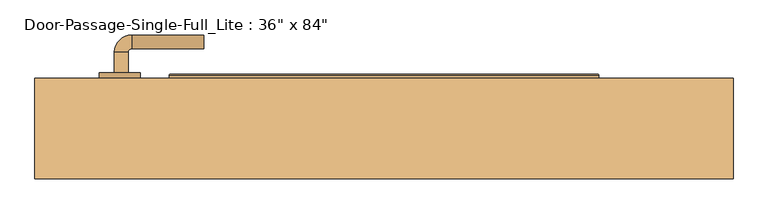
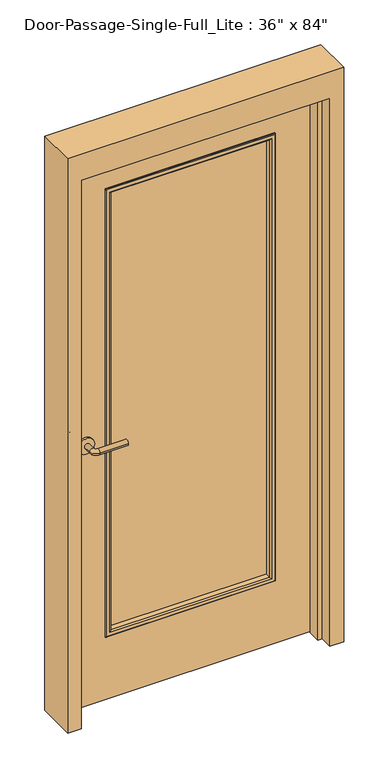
"""IFC4 building model written with IfcOpenShell, lengths in millimetres: door geometry."""

from ifc_helpers import new_model, si_unit, point, frame, frame_2d, origin, place, context, project, spatial, polyline, circle_curve, ellipse_curve, trimmed, segment, composite_curve, outline, extrude, faceted_brep, source, transform, mapped, element, save
from ifc_brep_helpers import plane_surface, cylinder_surface, revolved_surface, advanced_brep


def door_4a7c4c71(model_context):
    return source(origin(), model_context, "Body", "SolidModel", [
        advanced_brep(
        [(-392.190625, 23.75, 1016.0), (-372.190625, 23.75, 1016.0), (-372.190625, -6.25, 1016.0), (-392.190625, -6.25, 1016.0), (-367.190625, -11.25, 1016.0), (-367.190625, -31.25, 1016.0), (-262.190625, -31.25, 1016.0), (-262.190625, -11.25, 1016.0)],
        [
            (0, 1, circle_curve(frame((-382.190625, 23.75, 1016.0), z_axis=(0.0, 1.0, 0.0), x_axis=(1.0, 0.0, 0.0)), 10.0)),
            (1, 0, circle_curve(frame((-382.190625, 23.75, 1016.0), z_axis=(0.0, 1.0, 0.0), x_axis=(1.0, 0.0, 0.0)), 10.0)),
            (1, 2),
            (2, 3, circle_curve(frame((-382.190625, -6.25, 1016.0), z_axis=(0.0, 1.0, 0.0), x_axis=(1.0, 0.0, 0.0)), 10.0)),
            (3, 0),
            (3, 2, circle_curve(frame((-382.190625, -6.25, 1016.0), z_axis=(0.0, 1.0, 0.0), x_axis=(1.0, 0.0, 0.0)), 10.0)),
            (4, 5, circle_curve(frame((-367.190625, -21.25, 1016.0), z_axis=(-1.0, 0.0, 0.0), x_axis=(0.0, 1.0, 0.0)), 10.0)),
            (5, 3, circle_curve(frame((-367.190625, -6.25, 1016.0), z_axis=(0.0, 0.0, -1.0), x_axis=(-1.0, 0.0, 0.0)), 25.0)),
            (2, 4, circle_curve(frame((-367.190625, -6.25, 1016.0), z_axis=(0.0, 0.0, 1.0), x_axis=(-1.0, 0.0, 0.0)), 5.0)),
            (5, 4, circle_curve(frame((-367.190625, -21.25, 1016.0), z_axis=(-1.0, 0.0, 0.0), x_axis=(0.0, 1.0, 0.0)), 10.0)),
            (6, 7, circle_curve(frame((-262.190625, -21.25, 1016.0), z_axis=(1.0, 0.0, 0.0), x_axis=(0.0, 1.0, 0.0)), 10.0)),
            (7, 6, circle_curve(frame((-262.190625, -21.25, 1016.0), z_axis=(1.0, 0.0, 0.0), x_axis=(0.0, 1.0, 0.0)), 10.0)),
            (4, 7),
            (6, 5),
        ],
        [
            plane_surface(frame((-382.190625, 23.75, 1016.0), z_axis=(0.0, 1.0, 0.0), x_axis=(0.0, 0.0, 1.0))),
            cylinder_surface(frame((-382.190625, 23.75, 1016.0), z_axis=(0.0, 1.0, 0.0), x_axis=(1.0, 0.0, 0.0)), 10.0),
            revolved_surface(trimmed(ellipse_curve(frame((-382.190625, -6.25, 1016.0), z_axis=(0.0, -1.0, 0.0), x_axis=(1.0, 0.0, 0.0)), 10.0, 10.0), [point((-392.190625, -6.25, 1016.0))], [point((-372.190625, -6.25, 1016.0))], True, "CARTESIAN"), (-367.190625, -6.25, 1016.0), (0.0, 0.0, -1.0)),
            revolved_surface(trimmed(ellipse_curve(frame((-382.190625, -6.25, 1016.0), z_axis=(0.0, -1.0, 0.0), x_axis=(1.0, 0.0, 0.0)), 10.0, 10.0), [point((-372.190625, -6.25, 1016.0))], [point((-392.190625, -6.25, 1016.0))], True, "CARTESIAN"), (-367.190625, -6.25, 1016.0), (0.0, 0.0, -1.0)),
            plane_surface(frame((-262.190625, -21.25, 1016.0), z_axis=(1.0, 0.0, 0.0), x_axis=(0.0, 0.0, 1.0))),
            cylinder_surface(frame((-367.190625, -21.25, 1016.0), z_axis=(-1.0, 0.0, 0.0), x_axis=(0.0, 1.0, 0.0)), 10.0),
        ],
        [
            (0, [[1, 2]]),
            (1, [[3, 4, 5, -2]]),
            (1, [[-5, 6, -3, -1]]),
            (2, [[7, 8, -4, 9]]),
            (3, [[10, -9, -6, -8]]),
            (4, [[11, 12]]),
            (5, [[13, -11, 14, -7]]),
            (5, [[-14, -12, -13, -10]]),
        ],
    ),
        extrude(outline(composite_curve([segment(trimmed(circle_curve(frame_2d((1016.0, -384.690625)), 30.0), [point((1016.0, -414.690625))], [point((1016.0, -354.690625))], False, "CARTESIAN"), True, "CONTINUOUS"), segment(trimmed(circle_curve(frame_2d((1016.0, -384.690625)), 30.0), [point((1016.0, -354.690625))], [point((1016.0, -414.690625))], False, "CARTESIAN"), True, "CONTINUOUS")], self_intersect=False)), frame((0.0, 23.75, 0.0), z_axis=(0.0, 1.0, 0.0), x_axis=(0.0, 0.0, 1.0)), (0.0, 0.0, 1.0), 8.0),
        advanced_brep(
        [(-392.190625, 84.2, 1016.0), (-372.190625, 84.2, 1016.0), (-392.190625, 114.2, 1016.0), (-372.190625, 114.2, 1016.0), (-367.190625, 119.2, 1016.0), (-367.190625, 139.2, 1016.0), (-262.190625, 139.2, 1016.0), (-262.190625, 119.2, 1016.0)],
        [
            (0, 1, circle_curve(frame((-382.190625, 84.2, 1016.0), z_axis=(0.0, -1.0, 0.0), x_axis=(1.0, 0.0, 0.0)), 10.0)),
            (1, 0, circle_curve(frame((-382.190625, 84.2, 1016.0), z_axis=(0.0, -1.0, 0.0), x_axis=(1.0, 0.0, 0.0)), 10.0)),
            (0, 2),
            (2, 3, circle_curve(frame((-382.190625, 114.2, 1016.0), z_axis=(0.0, -1.0, 0.0), x_axis=(1.0, 0.0, 0.0)), 10.0)),
            (3, 1),
            (3, 2, circle_curve(frame((-382.190625, 114.2, 1016.0), z_axis=(0.0, -1.0, 0.0), x_axis=(1.0, 0.0, 0.0)), 10.0)),
            (4, 3, circle_curve(frame((-367.190625, 114.2, 1016.0), z_axis=(0.0, 0.0, 1.0), x_axis=(-1.0, 0.0, 0.0)), 5.0)),
            (2, 5, circle_curve(frame((-367.190625, 114.2, 1016.0), z_axis=(0.0, 0.0, -1.0), x_axis=(-1.0, 0.0, 0.0)), 25.0)),
            (5, 4, circle_curve(frame((-367.190625, 129.2, 1016.0), z_axis=(-1.0, 0.0, 0.0), x_axis=(0.0, -1.0, 0.0)), 10.0)),
            (4, 5, circle_curve(frame((-367.190625, 129.2, 1016.0), z_axis=(-1.0, 0.0, 0.0), x_axis=(0.0, -1.0, 0.0)), 10.0)),
            (6, 7, circle_curve(frame((-262.190625, 129.2, 1016.0), z_axis=(1.0, 0.0, 0.0), x_axis=(0.0, -1.0, 0.0)), 10.0)),
            (7, 6, circle_curve(frame((-262.190625, 129.2, 1016.0), z_axis=(1.0, 0.0, 0.0), x_axis=(0.0, -1.0, 0.0)), 10.0)),
            (5, 6),
            (7, 4),
        ],
        [
            plane_surface(frame((-382.190625, 84.2, 1016.0), z_axis=(0.0, -1.0, 0.0), x_axis=(0.0, 0.0, 1.0))),
            cylinder_surface(frame((-382.190625, 84.2, 1016.0), z_axis=(0.0, -1.0, 0.0), x_axis=(1.0, 0.0, 0.0)), 10.0),
            revolved_surface(trimmed(ellipse_curve(frame((-382.190625, 114.2, 1016.0), z_axis=(0.0, -1.0, 0.0), x_axis=(1.0, 0.0, 0.0)), 10.0, 10.0), [point((-392.190625, 114.2, 1016.0))], [point((-372.190625, 114.2, 1016.0))], True, "CARTESIAN"), (-367.190625, 114.2, 1016.0), (0.0, 0.0, -1.0)),
            revolved_surface(trimmed(ellipse_curve(frame((-382.190625, 114.2, 1016.0), z_axis=(0.0, -1.0, 0.0), x_axis=(1.0, 0.0, 0.0)), 10.0, 10.0), [point((-372.190625, 114.2, 1016.0))], [point((-392.190625, 114.2, 1016.0))], True, "CARTESIAN"), (-367.190625, 114.2, 1016.0), (0.0, 0.0, -1.0)),
            plane_surface(frame((-262.190625, 129.2, 1016.0), z_axis=(1.0, 0.0, 0.0), x_axis=(0.0, 0.0, 1.0))),
            cylinder_surface(frame((-367.190625, 129.2, 1016.0), z_axis=(-1.0, 0.0, 0.0), x_axis=(0.0, -1.0, 0.0)), 10.0),
        ],
        [
            (0, [[1, 2]]),
            (1, [[-1, 3, 4, 5]]),
            (1, [[-2, -5, 6, -3]]),
            (2, [[7, -4, 8, 9]]),
            (3, [[-8, -6, -7, 10]]),
            (4, [[11, 12]]),
            (5, [[-9, 13, -12, 14]]),
            (5, [[-10, -14, -11, -13]]),
        ],
    ),
        extrude(outline(composite_curve([segment(trimmed(circle_curve(frame_2d((1016.0, -384.690625)), 30.0), [point((1016.0, -414.690625))], [point((1016.0, -354.690625))], False, "CARTESIAN"), True, "CONTINUOUS"), segment(trimmed(circle_curve(frame_2d((1016.0, -384.690625)), 30.0), [point((1016.0, -354.690625))], [point((1016.0, -414.690625))], False, "CARTESIAN"), True, "CONTINUOUS")], self_intersect=False)), frame((0.0, 76.2, 0.0), z_axis=(0.0, 1.0, 0.0), x_axis=(0.0, 0.0, 1.0)), (0.0, 0.0, 1.0), 8.0),
        extrude(outline(polyline([(304.8, 50.8), (-304.8, 50.8), (-304.8, 57.15), (304.8, 57.15), (304.8, 50.8)])), frame((0.0, 0.0, 254.0), z_axis=(0.0, 0.0, 1.0), x_axis=(1.0, 0.0, 0.0)), (0.0, 0.0, 1.0), 1727.2),
        faceted_brep([(457.2, 26.9875, 0.0), (457.2, 76.2, 0.0), (508.0, 76.2, 0.0), (508.0, -69.85, 0.0), (457.2, -69.85, 0.0), (457.2, -20.6375, 0.0), (441.325, -20.6375, 0.0), (441.325, 26.9875, 0.0), (457.2, 26.9875, 2133.6), (457.2, 76.2, 2133.6), (-457.2, 76.2, 2133.6), (-457.2, 76.2, 0.0), (-508.0, 76.2, 0.0), (-508.0, 76.2, 2235.2), (508.0, 76.2, 2235.2), (508.0, -69.85, 2235.2), (-508.0, -69.85, 2235.2), (-508.0, -69.85, 0.0), (-457.2, -69.85, 0.0), (-457.2, -69.85, 2133.6), (457.2, -69.85, 2133.6), (457.2, -20.6375, 2133.6), (-457.2, -20.6375, 2133.6), (-457.2, -20.6375, 0.0), (-441.325, -20.6375, 0.0), (-441.325, -20.6375, 2117.725), (441.325, -20.6375, 2117.725), (441.325, 26.9875, 2117.725), (-441.325, 26.9875, 2117.725), (-441.325, 26.9875, 0.0), (-457.2, 26.9875, 0.0), (-457.2, 26.9875, 2133.6)], [[[0, 1, 2, 3, 4, 5, 6, 7]], [[1, 0, 8, 9]], [[2, 1, 9, 10, 11, 12, 13, 14]], [[3, 2, 14, 15]], [[4, 3, 15, 16, 17, 18, 19, 20]], [[5, 4, 20, 21]], [[6, 5, 21, 22, 23, 24, 25, 26]], [[7, 6, 26, 27]], [[0, 7, 27, 28, 29, 30, 31, 8]], [[9, 8, 31, 10]], [[20, 19, 22, 21]], [[26, 25, 28, 27]], [[12, 11, 30, 29, 24, 23, 18, 17]], [[11, 10, 31, 30]], [[13, 12, 17, 16]], [[19, 18, 23, 22]], [[25, 24, 29, 28]], [[15, 14, 13, 16]]]),
        extrude(outline(polyline([(2133.6, -457.2), (0.0, -457.2), (0.0, 457.2), (2133.6, 457.2), (2133.6, -457.2)]), holes=[polyline([(1981.2, -304.8), (1981.2, 304.8), (254.0, 304.8), (254.0, -304.8), (1981.2, -304.8)])]), frame((0.0, 31.75, 0.0), z_axis=(0.0, 1.0, 0.0), x_axis=(0.0, 0.0, 1.0)), (0.0, 0.0, 1.0), 44.45),
        advanced_brep(
        [(-304.8, 57.15, 1981.2), (-304.8, 76.2, 1981.2), (-304.8, 76.2, 254.0), (-304.8, 57.15, 254.0), (-292.8, 77.2, 1969.2), (-292.8, 57.15, 1969.2), (-292.8, 57.15, 266.0), (-292.8, 77.2, 266.0), (-297.8, 82.2, 1974.2), (-297.8, 82.2, 261.0), (-312.8, 80.2, 1989.2), (-310.8, 82.2, 1987.2), (-310.8, 82.2, 248.0), (-312.8, 80.2, 246.0), (-312.8, 76.2, 1989.2), (-312.8, 76.2, 246.0), (304.8, 76.2, 254.0), (304.8, 57.15, 254.0), (292.8, 57.15, 266.0), (292.8, 77.2, 266.0), (297.8, 82.2, 261.0), (310.8, 82.2, 248.0), (312.8, 80.2, 246.0), (312.8, 76.2, 246.0), (304.8, 76.2, 1981.2), (304.8, 57.15, 1981.2), (292.8, 57.15, 1969.2), (292.8, 77.2, 1969.2), (297.8, 82.2, 1974.2), (310.8, 82.2, 1987.2), (312.8, 80.2, 1989.2), (312.8, 76.2, 1989.2)],
        [
            (0, 1),
            (1, 2),
            (2, 3),
            (3, 0),
            (4, 5),
            (5, 6),
            (6, 7),
            (7, 4),
            (8, 4, ellipse_curve(frame((-297.8, 77.2, 1974.2), z_axis=(-0.7071067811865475, 0.0, -0.7071067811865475), x_axis=(-0.7071067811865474, 0.0, 0.7071067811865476)), 7.0710678, 5.0)),
            (7, 9, ellipse_curve(frame((-297.8, 77.2, 261.0), z_axis=(-0.7071067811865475, 0.0, 0.7071067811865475), x_axis=(0.7071067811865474, 0.0, 0.7071067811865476)), 7.0710678, 5.0)),
            (9, 8),
            (10, 11, ellipse_curve(frame((-310.8, 80.2, 1987.2), z_axis=(-0.7071067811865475, 0.0, -0.7071067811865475), x_axis=(-0.7071067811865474, 0.0, 0.7071067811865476)), 2.8284271, 2.0)),
            (11, 12),
            (12, 13, ellipse_curve(frame((-310.8, 80.2, 248.0), z_axis=(-0.7071067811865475, 0.0, 0.7071067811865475), x_axis=(0.7071067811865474, 0.0, 0.7071067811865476)), 2.8284271, 2.0)),
            (13, 10),
            (14, 10),
            (13, 15),
            (15, 14),
            (2, 16),
            (16, 17),
            (17, 3),
            (6, 18),
            (18, 19),
            (19, 7),
            (19, 20, ellipse_curve(frame((297.8, 77.2, 261.0), z_axis=(-0.7071067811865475, 0.0, -0.7071067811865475), x_axis=(-0.7071067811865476, 0.0, 0.7071067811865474)), 7.0710678, 5.0)),
            (20, 9),
            (12, 21),
            (21, 22, ellipse_curve(frame((310.8, 80.2, 248.0), z_axis=(-0.7071067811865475, 0.0, -0.7071067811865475), x_axis=(-0.7071067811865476, 0.0, 0.7071067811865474)), 2.8284271, 2.0)),
            (22, 13),
            (22, 23),
            (23, 15),
            (16, 24),
            (24, 25),
            (25, 17),
            (18, 26),
            (26, 27),
            (27, 19),
            (27, 28, ellipse_curve(frame((297.8, 77.2, 1974.2), z_axis=(0.7071067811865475, 0.0, -0.7071067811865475), x_axis=(-0.7071067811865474, 0.0, -0.7071067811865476)), 7.0710678, 5.0)),
            (28, 20),
            (21, 29),
            (29, 30, ellipse_curve(frame((310.8, 80.2, 1987.2), z_axis=(0.7071067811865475, 0.0, -0.7071067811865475), x_axis=(-0.7071067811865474, 0.0, -0.7071067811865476)), 2.8284271, 2.0)),
            (30, 22),
            (30, 31),
            (31, 23),
            (31, 14),
            (1, 24),
            (0, 25),
            (5, 26),
            (4, 27),
            (8, 28),
            (11, 29),
            (10, 30),
        ],
        [
            plane_surface(frame((-304.8, 76.2, 1981.2), z_axis=(-1.0, 0.0, 0.0), x_axis=(0.0, 0.0, -1.0))),
            plane_surface(frame((-292.8, 57.15, 1969.2), z_axis=(1.0, 0.0, 0.0), x_axis=(0.0, 0.0, -1.0))),
            cylinder_surface(frame((-297.8, 77.2, 1981.2), z_axis=(0.0, 0.0, 1.0), x_axis=(-1.0, 0.0, 0.0)), 5.0),
            cylinder_surface(frame((-310.8, 80.2, 1981.2), z_axis=(0.0, 0.0, 1.0), x_axis=(-1.0, 0.0, 0.0)), 2.0),
            plane_surface(frame((-312.8, 80.2, 1989.2), z_axis=(-1.0, 0.0, 0.0), x_axis=(0.0, 0.0, -1.0))),
            plane_surface(frame((-304.8, 76.2, 254.0), z_axis=(0.0, 0.0, -1.0), x_axis=(1.0, 0.0, 0.0))),
            plane_surface(frame((-292.8, 57.15, 266.0), z_axis=(0.0, 0.0, 1.0), x_axis=(1.0, 0.0, 0.0))),
            cylinder_surface(frame((-304.8, 77.2, 261.0), z_axis=(-1.0, 0.0, 0.0), x_axis=(0.0, 0.0, -1.0)), 5.0),
            cylinder_surface(frame((-304.8, 80.2, 248.0), z_axis=(-1.0, 0.0, 0.0), x_axis=(0.0, 0.0, -1.0)), 2.0),
            plane_surface(frame((-312.8, 80.2, 246.0), z_axis=(0.0, 0.0, -1.0), x_axis=(1.0, 0.0, 0.0))),
            plane_surface(frame((304.8, 76.2, 254.0), z_axis=(1.0, 0.0, 0.0), x_axis=(0.0, 0.0, 1.0))),
            plane_surface(frame((292.8, 57.15, 266.0), z_axis=(-1.0, 0.0, 0.0), x_axis=(0.0, 0.0, 1.0))),
            cylinder_surface(frame((297.8, 77.2, 254.0), z_axis=(0.0, 0.0, -1.0), x_axis=(1.0, 0.0, 0.0)), 5.0),
            cylinder_surface(frame((310.8, 80.2, 254.0), z_axis=(0.0, 0.0, -1.0), x_axis=(1.0, 0.0, 0.0)), 2.0),
            plane_surface(frame((312.8, 80.2, 246.0), z_axis=(1.0, 0.0, 0.0), x_axis=(0.0, 0.0, 1.0))),
            plane_surface(frame((312.8, 76.2, 1989.2), z_axis=(0.0, -1.0, 0.0), x_axis=(-1.0, 0.0, 0.0))),
            plane_surface(frame((304.8, 76.2, 1981.2), z_axis=(0.0, 0.0, 1.0), x_axis=(-1.0, 0.0, 0.0))),
            plane_surface(frame((304.8, 57.15, 1981.2), z_axis=(0.0, -1.0, 0.0), x_axis=(-1.0, 0.0, 0.0))),
            plane_surface(frame((292.8, 57.15, 1969.2), z_axis=(0.0, 0.0, -1.0), x_axis=(-1.0, 0.0, 0.0))),
            cylinder_surface(frame((304.8, 77.2, 1974.2), z_axis=(1.0, 0.0, 0.0), x_axis=(0.0, 0.0, 1.0)), 5.0),
            plane_surface(frame((297.8, 82.2, 1974.2), z_axis=(0.0, 1.0, 0.0), x_axis=(-1.0, 0.0, 0.0))),
            cylinder_surface(frame((304.8, 80.2, 1987.2), z_axis=(1.0, 0.0, 0.0), x_axis=(0.0, 0.0, 1.0)), 2.0),
            plane_surface(frame((312.8, 80.2, 1989.2), z_axis=(0.0, 0.0, 1.0), x_axis=(-1.0, 0.0, 0.0))),
        ],
        [
            (0, [[1, 2, 3, 4]]),
            (1, [[5, 6, 7, 8]]),
            (2, [[9, -8, 10, 11]]),
            (3, [[12, 13, 14, 15]]),
            (4, [[16, -15, 17, 18]]),
            (5, [[-3, 19, 20, 21]]),
            (6, [[-7, 22, 23, 24]]),
            (7, [[-10, -24, 25, 26]]),
            (8, [[-14, 27, 28, 29]]),
            (9, [[-17, -29, 30, 31]]),
            (10, [[-20, 32, 33, 34]]),
            (11, [[-23, 35, 36, 37]]),
            (12, [[-25, -37, 38, 39]]),
            (13, [[-28, 40, 41, 42]]),
            (14, [[-30, -42, 43, 44]]),
            (15, [[-31, -44, 45, -18], [46, -32, -19, -2]]),
            (16, [[-33, -46, -1, 47]]),
            (17, [[-21, -34, -47, -4], [48, -35, -22, -6]]),
            (18, [[-36, -48, -5, 49]]),
            (19, [[-38, -49, -9, 50]]),
            (20, [[51, -40, -27, -13], [-26, -39, -50, -11]]),
            (21, [[-41, -51, -12, 52]]),
            (22, [[-43, -52, -16, -45]]),
        ],
    ),
        advanced_brep(
        [(-304.8, 50.8, 254.0), (-304.8, 31.75, 254.0), (-304.8, 31.75, 1981.2), (-304.8, 50.8, 1981.2), (-292.8, 30.75, 266.0), (-292.8, 50.8, 266.0), (-292.8, 50.8, 1969.2), (-292.8, 30.75, 1969.2), (-297.8, 25.75, 261.0), (-297.8, 25.75, 1974.2), (-312.8, 27.75, 246.0), (-310.8, 25.75, 248.0), (-310.8, 25.75, 1987.2), (-312.8, 27.75, 1989.2), (-312.8, 31.75, 246.0), (-312.8, 31.75, 1989.2), (304.8, 31.75, 1981.2), (304.8, 50.8, 1981.2), (292.8, 50.8, 1969.2), (292.8, 30.75, 1969.2), (297.8, 25.75, 1974.2), (310.8, 25.75, 1987.2), (312.8, 27.75, 1989.2), (312.8, 31.75, 1989.2), (304.8, 31.75, 254.0), (304.8, 50.8, 254.0), (292.8, 50.8, 266.0), (292.8, 30.75, 266.0), (297.8, 25.75, 261.0), (310.8, 25.75, 248.0), (312.8, 27.75, 246.0), (312.8, 31.75, 246.0)],
        [
            (0, 1),
            (1, 2),
            (2, 3),
            (3, 0),
            (4, 5),
            (5, 6),
            (6, 7),
            (7, 4),
            (8, 4, ellipse_curve(frame((-297.8, 30.75, 261.0), z_axis=(-0.7071067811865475, 0.0, 0.7071067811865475), x_axis=(-0.7071067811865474, 0.0, -0.7071067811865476)), 7.0710678, 5.0)),
            (7, 9, ellipse_curve(frame((-297.8, 30.75, 1974.2), z_axis=(-0.7071067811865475, 0.0, -0.7071067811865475), x_axis=(0.7071067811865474, 0.0, -0.7071067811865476)), 7.0710678, 5.0)),
            (9, 8),
            (10, 11, ellipse_curve(frame((-310.8, 27.75, 248.0), z_axis=(-0.7071067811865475, 0.0, 0.7071067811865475), x_axis=(-0.7071067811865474, 0.0, -0.7071067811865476)), 2.8284271, 2.0)),
            (11, 12),
            (12, 13, ellipse_curve(frame((-310.8, 27.75, 1987.2), z_axis=(-0.7071067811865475, 0.0, -0.7071067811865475), x_axis=(0.7071067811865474, 0.0, -0.7071067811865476)), 2.8284271, 2.0)),
            (13, 10),
            (14, 10),
            (13, 15),
            (15, 14),
            (2, 16),
            (16, 17),
            (17, 3),
            (6, 18),
            (18, 19),
            (19, 7),
            (19, 20, ellipse_curve(frame((297.8, 30.75, 1974.2), z_axis=(-0.7071067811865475, 0.0, 0.7071067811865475), x_axis=(-0.7071067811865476, 0.0, -0.7071067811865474)), 7.0710678, 5.0)),
            (20, 9),
            (12, 21),
            (21, 22, ellipse_curve(frame((310.8, 27.75, 1987.2), z_axis=(-0.7071067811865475, 0.0, 0.7071067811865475), x_axis=(-0.7071067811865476, 0.0, -0.7071067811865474)), 2.8284271, 2.0)),
            (22, 13),
            (22, 23),
            (23, 15),
            (16, 24),
            (24, 25),
            (25, 17),
            (18, 26),
            (26, 27),
            (27, 19),
            (27, 28, ellipse_curve(frame((297.8, 30.75, 261.0), z_axis=(0.7071067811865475, 0.0, 0.7071067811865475), x_axis=(-0.7071067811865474, 0.0, 0.7071067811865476)), 7.0710678, 5.0)),
            (28, 20),
            (21, 29),
            (29, 30, ellipse_curve(frame((310.8, 27.75, 248.0), z_axis=(0.7071067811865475, 0.0, 0.7071067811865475), x_axis=(-0.7071067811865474, 0.0, 0.7071067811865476)), 2.8284271, 2.0)),
            (30, 22),
            (30, 31),
            (31, 23),
            (31, 14),
            (1, 24),
            (0, 25),
            (5, 26),
            (4, 27),
            (8, 28),
            (11, 29),
            (10, 30),
        ],
        [
            plane_surface(frame((-304.8, 31.75, 254.0), z_axis=(-1.0, 0.0, 0.0), x_axis=(0.0, 0.0, 1.0))),
            plane_surface(frame((-292.8, 50.8, 266.0), z_axis=(1.0, 0.0, 0.0), x_axis=(0.0, 0.0, 1.0))),
            cylinder_surface(frame((-297.8, 30.75, 254.0), z_axis=(0.0, 0.0, -1.0), x_axis=(-1.0, 0.0, 0.0)), 5.0),
            cylinder_surface(frame((-310.8, 27.75, 254.0), z_axis=(0.0, 0.0, -1.0), x_axis=(-1.0, 0.0, 0.0)), 2.0),
            plane_surface(frame((-312.8, 27.75, 246.0), z_axis=(-1.0, 0.0, 0.0), x_axis=(0.0, 0.0, 1.0))),
            plane_surface(frame((-304.8, 31.75, 1981.2), z_axis=(0.0, 0.0, 1.0), x_axis=(1.0, 0.0, 0.0))),
            plane_surface(frame((-292.8, 50.8, 1969.2), z_axis=(0.0, 0.0, -1.0), x_axis=(1.0, 0.0, 0.0))),
            cylinder_surface(frame((-304.8, 30.75, 1974.2), z_axis=(-1.0, 0.0, 0.0), x_axis=(0.0, 0.0, 1.0)), 5.0),
            cylinder_surface(frame((-304.8, 27.75, 1987.2), z_axis=(-1.0, 0.0, 0.0), x_axis=(0.0, 0.0, 1.0)), 2.0),
            plane_surface(frame((-312.8, 27.75, 1989.2), z_axis=(0.0, 0.0, 1.0), x_axis=(1.0, 0.0, 0.0))),
            plane_surface(frame((304.8, 31.75, 1981.2), z_axis=(1.0, 0.0, 0.0), x_axis=(0.0, 0.0, -1.0))),
            plane_surface(frame((292.8, 50.8, 1969.2), z_axis=(-1.0, 0.0, 0.0), x_axis=(0.0, 0.0, -1.0))),
            cylinder_surface(frame((297.8, 30.75, 1981.2), z_axis=(0.0, 0.0, 1.0), x_axis=(1.0, 0.0, 0.0)), 5.0),
            cylinder_surface(frame((310.8, 27.75, 1981.2), z_axis=(0.0, 0.0, 1.0), x_axis=(1.0, 0.0, 0.0)), 2.0),
            plane_surface(frame((312.8, 27.75, 1989.2), z_axis=(1.0, 0.0, 0.0), x_axis=(0.0, 0.0, -1.0))),
            plane_surface(frame((312.8, 31.75, 246.0), z_axis=(0.0, 1.0, 0.0), x_axis=(-1.0, 0.0, 0.0))),
            plane_surface(frame((304.8, 31.75, 254.0), z_axis=(0.0, 0.0, -1.0), x_axis=(-1.0, 0.0, 0.0))),
            plane_surface(frame((304.8, 50.8, 254.0), z_axis=(0.0, 1.0, 0.0), x_axis=(-1.0, 0.0, 0.0))),
            plane_surface(frame((292.8, 50.8, 266.0), z_axis=(0.0, 0.0, 1.0), x_axis=(-1.0, 0.0, 0.0))),
            cylinder_surface(frame((304.8, 30.75, 261.0), z_axis=(1.0, 0.0, 0.0), x_axis=(0.0, 0.0, -1.0)), 5.0),
            plane_surface(frame((297.8, 25.75, 261.0), z_axis=(0.0, -1.0, 0.0), x_axis=(-1.0, 0.0, 0.0))),
            cylinder_surface(frame((304.8, 27.75, 248.0), z_axis=(1.0, 0.0, 0.0), x_axis=(0.0, 0.0, -1.0)), 2.0),
            plane_surface(frame((312.8, 27.75, 246.0), z_axis=(0.0, 0.0, -1.0), x_axis=(-1.0, 0.0, 0.0))),
        ],
        [
            (0, [[1, 2, 3, 4]]),
            (1, [[5, 6, 7, 8]]),
            (2, [[9, -8, 10, 11]]),
            (3, [[12, 13, 14, 15]]),
            (4, [[16, -15, 17, 18]]),
            (5, [[-3, 19, 20, 21]]),
            (6, [[-7, 22, 23, 24]]),
            (7, [[-10, -24, 25, 26]]),
            (8, [[-14, 27, 28, 29]]),
            (9, [[-17, -29, 30, 31]]),
            (10, [[-20, 32, 33, 34]]),
            (11, [[-23, 35, 36, 37]]),
            (12, [[-25, -37, 38, 39]]),
            (13, [[-28, 40, 41, 42]]),
            (14, [[-30, -42, 43, 44]]),
            (15, [[-31, -44, 45, -18], [46, -32, -19, -2]]),
            (16, [[-33, -46, -1, 47]]),
            (17, [[-21, -34, -47, -4], [48, -35, -22, -6]]),
            (18, [[-36, -48, -5, 49]]),
            (19, [[-38, -49, -9, 50]]),
            (20, [[51, -40, -27, -13], [-26, -39, -50, -11]]),
            (21, [[-41, -51, -12, 52]]),
            (22, [[-43, -52, -16, -45]]),
        ],
    ),
    ])


if __name__ == "__main__":
    model = new_model("IFC4")
    model_context = context("Model", 3, world=origin())
    ifc_project = project(units=[si_unit("LENGTHUNIT", "METRE", prefix="MILLI")], contexts=[model_context])
    site = spatial("IfcSite", under=ifc_project)
    building = spatial("IfcBuilding", under=site)
    placement = place(None, origin())
    door_shape = door_4a7c4c71(model_context)
    element("IfcDoor", 1, ObjectType="Door-Passage-Single-Full_Lite : 36\" x 84\"", at=placement, inside=building, context=model_context, shape_type="MappedRepresentation", body=[
        mapped(door_shape, transform((0.0, 0.0, 0.0), x_axis=(1.0, 0.0, 0.0), y_axis=(0.0, 1.0, 0.0), z_axis=(0.0, 0.0, 1.0))),
    ])
    save(model, "model.ifc")
